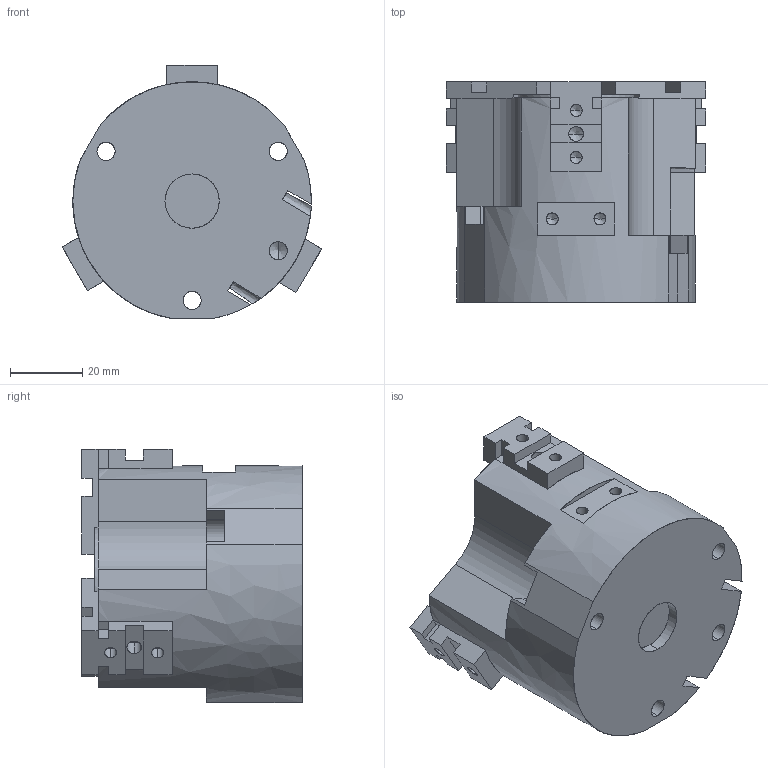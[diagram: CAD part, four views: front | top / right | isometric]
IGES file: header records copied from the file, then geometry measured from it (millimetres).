
Start section: SolidWorks IGES file using analytic representation for surfaces
Global section: file name: D:\Documents de SGA\Pieces 2D et 3D\OPE\OPE 65-3\OPE 65-3 fermé.IGS; native system: SolidWorks 2010; preprocessor: SolidWorks 2010; author: SGA; date: 110929.100700; units: millimetre
Bounding box: 71.82 x 61 x 70.01 mm (x, y, z)
Surface area: 37501.9 mm2 (no closed solid volume)
Topology: 0 solids, 0 shells, 596 faces, 6678 edges, 6632 vertices
Faces by surface type: bspline 479, revolution 117
